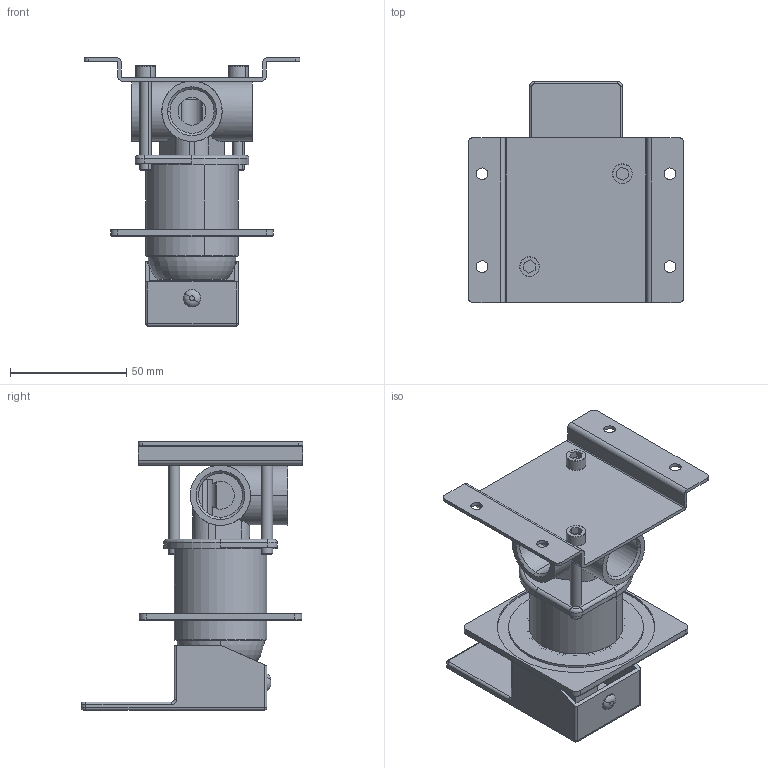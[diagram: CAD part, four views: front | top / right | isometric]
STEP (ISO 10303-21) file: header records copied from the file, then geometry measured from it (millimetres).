
FILE_DESCRIPTION (( 'STEP AP203' ), '1' );
FILE_NAME ('H5T38.STEP', '2023-11-23T16:47:49', ( '' ), ( '' ), 'SwSTEP 2.0', 'SolidWorks 2021', '' );
FILE_SCHEMA (( 'CONFIG_CONTROL_DESIGN' ));
Length unit declared in the file: millimetre
Products named in the file (11): C12.00.0036; H5T38; C31.00.0006.01; C18.14.0006; C11.10.0022; C50.00.0038.00; C10.00.0015; C47.00.0015; C25.1081.00.0_DefaultSviluppo; PIASTRA ESTETICA MECCANICO ﾘ 35 QUADRA; C24.1837.00.0
Assembly tree (11 placements, depth 2):
  H5T38
    C10.00.0015
    C50.00.0038.00
    C47.00.0015
    C25.1081.00.0_DefaultSviluppo
    C11.10.0022  x2
    C24.1837.00.0
    C31.00.0006.01
    PIASTRA ESTETICA MECCANICO ﾘ 35 QUADRA
    C12.00.0036
    C18.14.0006
Bounding box: 93 x 95.5 x 115.6 mm (x, y, z)
Volume: 119654.9 mm3; surface area: 85467.7 mm2
Topology: 14 solids, 14 shells, 467 faces, 1099 edges, 684 vertices
Faces by surface type: plane 186, cylinder 179, cone 56, torus 44, sphere 2
Entity records: 14478 total; most frequent: CARTESIAN_POINT 2673, DIRECTION 2383, ORIENTED_EDGE 2098, EDGE_CURVE 1049, AXIS2_PLACEMENT_3D 932, VERTEX_POINT 658, VECTOR 519, LINE 519
